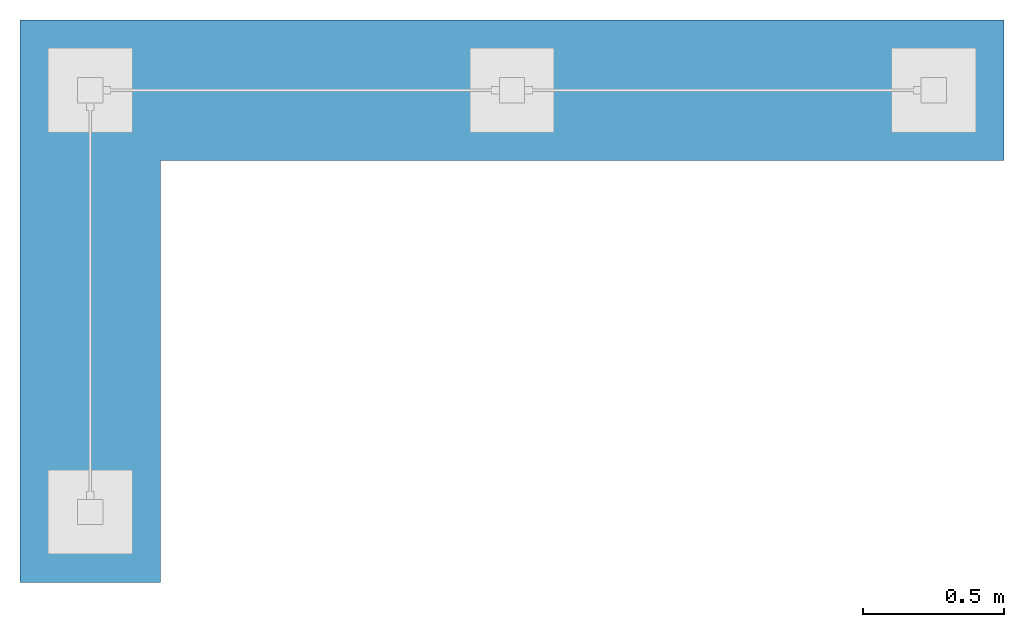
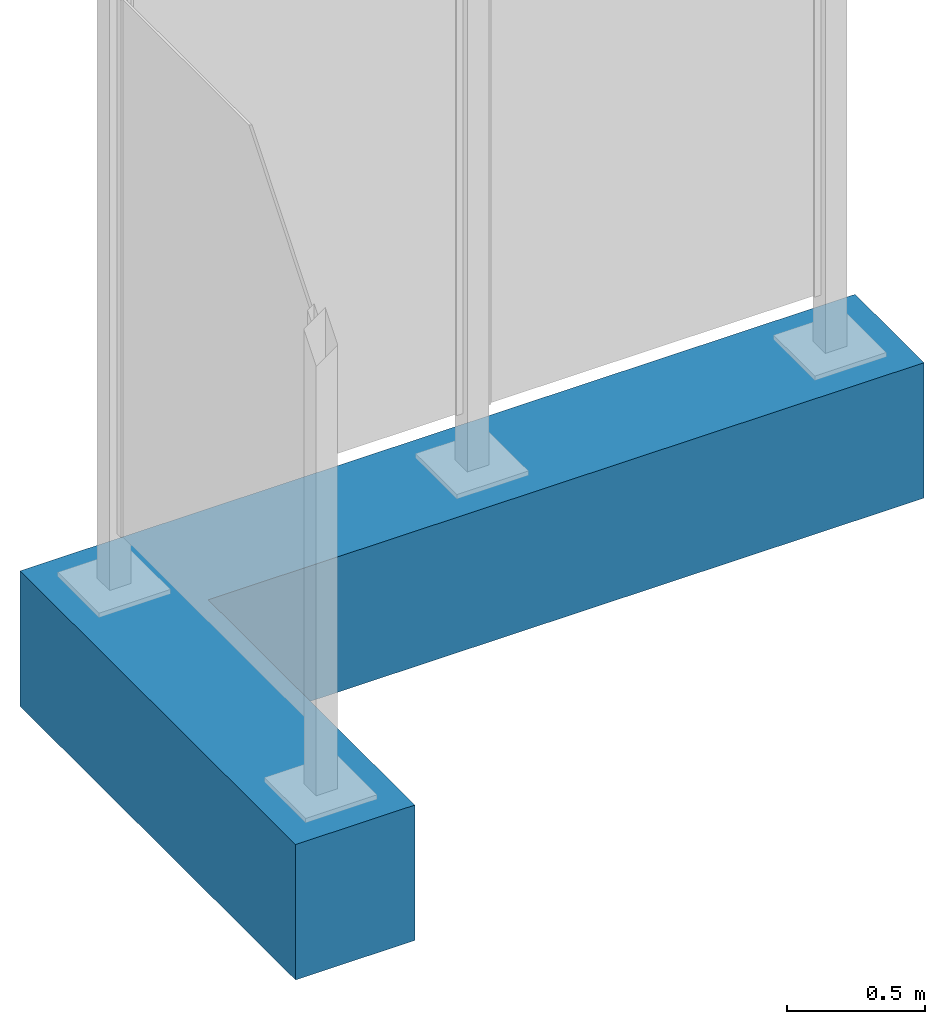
# One storey, part 1 of 2: 1 slab.
"""IFC4 building model written with IfcOpenShell, lengths in metres."""

from ifc_helpers import new_model, entity, si_unit, converted_unit, direction, frame, origin, place, context, subcontext, project, spatial, polyline, outline, extrude, material, type_object, element, save


model = new_model("IFC4")

# Units and contexts
model_context = context("Model", 3, precision=1e-05, world=origin(), true_north=direction((6.123031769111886e-17, 1.0)))
body_context = subcontext(model_context, "Body", "Model", "MODEL_VIEW")
ifc_project = project(units=[si_unit("LENGTHUNIT", "METRE"), converted_unit("PLANEANGLEUNIT", "DEGREE", entity("IfcPlaneAngleMeasure", 0.017453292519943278), si_unit("PLANEANGLEUNIT", "RADIAN"), dimensions=[0, 0, 0, 0, 0, 0, 0]), si_unit("AREAUNIT", "SQUARE_METRE")], contexts=[model_context])

# Site, building, storey
site_placement = place(None, origin())
site = spatial("IfcSite", under=ifc_project, at=site_placement, Name="Default", CompositionType="ELEMENT")
building_placement = place(site_placement, origin())
building = spatial("IfcBuilding", under=site, at=building_placement, CompositionType="ELEMENT")
storey_placement = place(building_placement, origin())
storey = spatial("IfcBuildingStorey", under=building, at=storey_placement, Name="DB_Bezugshoehe_max_Bahnsteigkante", CompositionType="ELEMENT", Elevation=0.0)

# Slab
ifc_material = material(Name="DB_Ortbeton", Category="DB_Beton")
slab_type = type_object("IfcSlabType", Name="DB_Windschutz_2-feldrig_L_Fundament:DB_Windschutz_2-feldrig_S_Fundament", PredefinedType="BASESLAB", material=ifc_material)
slab_placement = place(storey_placement, origin())
element("IfcSlab", 1, at=slab_placement, inside=storey, type_object=slab_type, Name="DB_Windschutz_2-feldrig_L_Fundament:DB_Windschutz_2-feldrig_S_Fundament", ObjectType="DB_Windschutz_2-feldrig_L_Fundament:DB_Windschutz_2-feldrig_S_Fundament", PredefinedType="BASESLAB", context=body_context, shape_type="SweptSolid", body=[
    extrude(outline(polyline([(0.3949999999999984, 0.18749999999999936), (2.034999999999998, 0.18749999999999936), (2.0349999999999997, 0.6874999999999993), (0.39500000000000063, 0.6874999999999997), (-1.4649999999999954, 0.6874999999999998), (-1.4650000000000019, -1.312499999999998), (-0.9650000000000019, -1.3124999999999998), (-0.964999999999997, 0.18749999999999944), (0.3949999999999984, 0.18749999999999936)])), frame((1.2150000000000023, 1.0624999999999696, 0.0)), (0.0, 0.0, 1.0), 0.5999999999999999),
])

save(model, "model.ifc")
